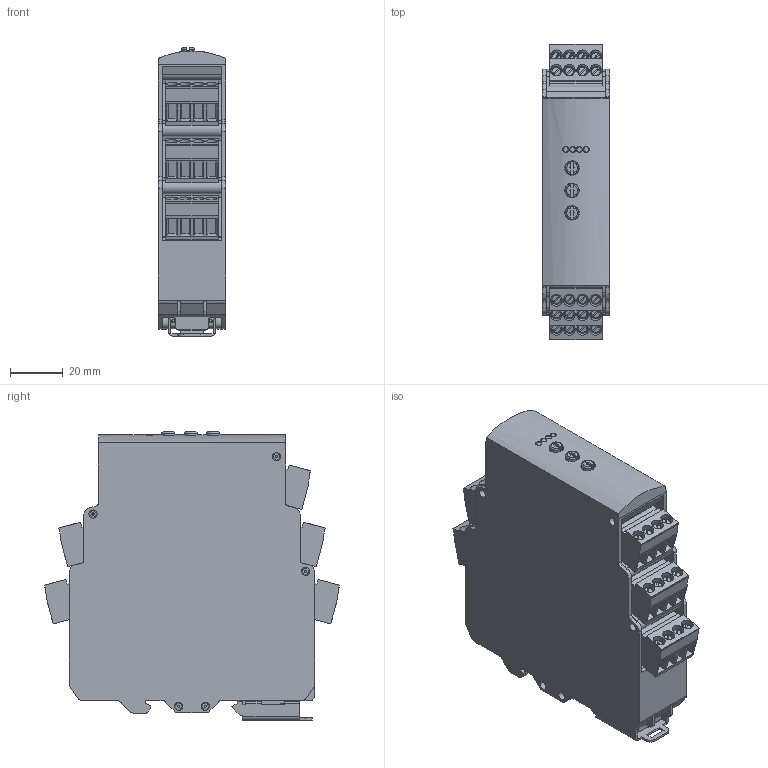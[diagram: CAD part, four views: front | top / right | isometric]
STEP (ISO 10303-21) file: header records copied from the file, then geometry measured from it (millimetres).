
FILE_DESCRIPTION( ( 'STEP AP203' ), ' ' );
FILE_NAME( 'p:/temp/worker_12/3972_3860/app_68_02015083108145680826899192d056f_000000_00_00_000000/format_3/DL0201.stp', '2015-08-31T06:15:04', ( '' ), ( '' ), ' ', 'PARTsolutions', ' ' );
FILE_SCHEMA( ( 'CONFIG_CONTROL_DESIGN' ) );
Length unit declared in the file: millimetre
Products named in the file (1): _DL0201
Bounding box: 25.4 x 111.86 x 109.04 mm (x, y, z)
Volume: 223222.8 mm3; surface area: 37998.7 mm2
Topology: 1 solids, 1 shells, 790 faces, 2120 edges, 1403 vertices
Faces by surface type: plane 617, cylinder 139, torus 26, cone 8
Full cylindrical faces by diameter (mm): 0.86 x8, 2 x4, 2.275 x4, 4 x20, 4.5 x20, 5 x3, 5.45 x3
Entity records: 24334 total; most frequent: CARTESIAN_POINT 4921, ORIENTED_EDGE 3976, DIRECTION 3870, EDGE_CURVE 1988, LINE 1490, VECTOR 1490, VERTEX_POINT 1361, AXIS2_PLACEMENT_3D 1190
